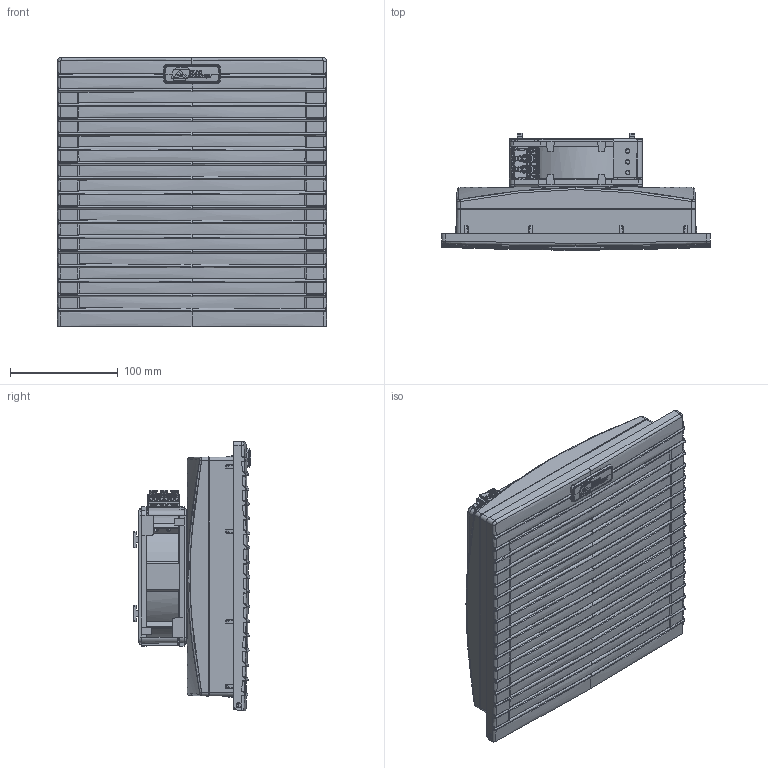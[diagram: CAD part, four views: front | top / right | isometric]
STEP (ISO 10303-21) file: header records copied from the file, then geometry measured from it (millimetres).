
FILE_DESCRIPTION(/* description */ (''),/* implementation_level */ '2;1');
FILE_NAME(/* name */ 'ATV420~1',/* time_stamp */ '2019-02-18T16:43:56+01:00',/* author */ (''),/* organization */ (''),/* preprocessor_version */ 'ST-DEVELOPER v16.5',/* originating_system */ '',/* authorisation */ '');
FILE_SCHEMA (('AUTOMOTIVE_DESIGN'));
Products named in the file (2): Document; Blocco01
Assembly tree (1 placements, depth 2):
  Document
    Blocco01
Bounding box: 250 x 108.94 x 250 mm (x, y, z)
Volume: 122196.2 mm3; surface area: 627553.6 mm2
Topology: 3 solids, 3172 shells, 4669 faces, 20117 edges, 18424 vertices
Faces by surface type: bspline 3426, plane 1243
Entity records: 395367 total; most frequent: CARTESIAN_POINT 260868, ORIENTED_EDGE 23961, EDGE_CURVE 19930, VERTEX_POINT 18433, B_SPLINE_CURVE_WITH_KNOTS 17340, EDGE_LOOP 4821, ADVANCED_FACE 4669, FACE_OUTER_BOUND 4669
